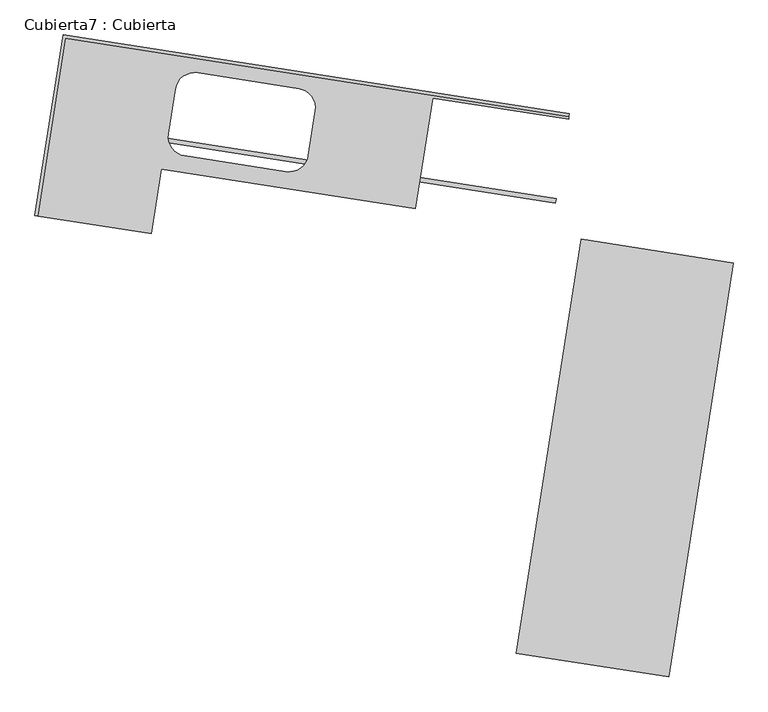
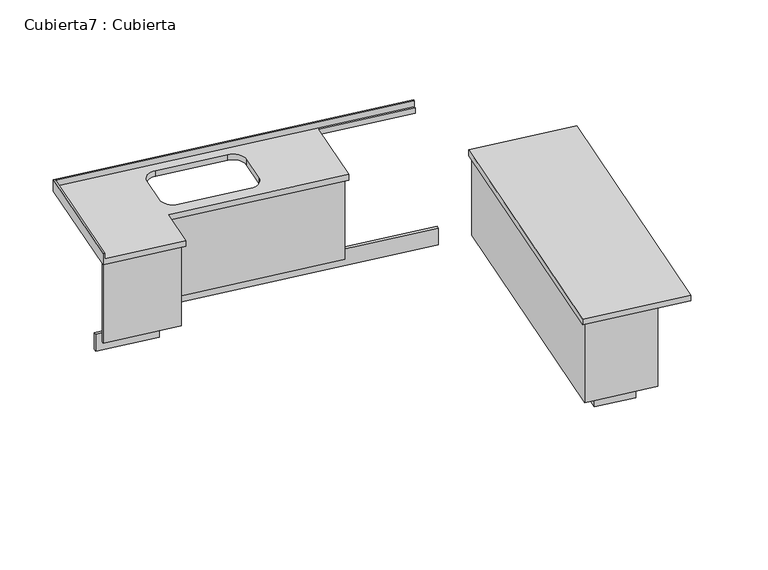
"""IFC4 building model written with IfcOpenShell, lengths in millimetres: furniture geometry, Cubierta7 : Cubierta."""

from ifc_helpers import new_model, si_unit, frame, origin, origin_with_axes, place, context, project, spatial, polyline, circle_curve, outline, extrude, faceted_brep, source, transform, mapped, element, save
from ifc_brep_helpers import plane_surface, revolved_surface, advanced_brep


def cubierta7_cubierta_697297b2(model_context):
    return source(origin(), model_context, "Body", "SolidModel", [
        extrude(outline(polyline([(-29021.3336477, -59013.6408119), (-28996.6319149, -59017.4910587), (-29326.2130606, -61131.9594818), (-29054.4939944, -61174.3121981), (-28724.9128487, -59059.8437765), (-28700.211116, -59063.6940234), (-29033.6425085, -61202.8641777), (-29354.7650402, -61152.8109677), (-29021.3336477, -59013.6408119)])), origin_with_axes(), (0.0, 0.0, 1.0), 150.0),
        extrude(outline(polyline([(-29125.0809247, -58997.4697745), (-29474.6833543, -61240.3872084), (-28946.0662678, -61322.7824918), (-28596.463839, -59079.865061), (-28576.7024528, -59082.9452585), (-28929.3850791, -61345.6240755), (-29497.524938, -61257.0683971), (-29144.8423109, -58994.389577), (-29125.0809247, -58997.4697745)])), frame((0.0, 0.0, 150.0), z_axis=(0.0, 0.0, 1.0), x_axis=(1.0, 0.0, 0.0)), (0.0, 0.0, 1.0), 720.0),
        extrude(outline(polyline([(-32162.243803, -58711.3026288), (-32158.3935562, -58686.600896), (-31689.0606345, -58759.755586), (-31633.6170853, -58404.050669), (-29306.7138747, -58766.7439199), (-29310.5641216, -58791.4456526), (-31612.7655994, -58432.6026486), (-31668.2091487, -58788.3075656), (-32162.243803, -58711.3026288)])), origin_with_axes(), (0.0, 0.0, 1.0), 150.0),
        extrude(outline(polyline([(-31563.9517193, -58931.0674634), (-32171.6143441, -58836.351391), (-32168.5341467, -58816.5900049), (-31580.632908, -58908.2258798), (-31525.1893588, -58552.5209627), (-30122.1309518, -58771.2149817), (-30028.9549782, -58173.4330499), (-30009.193592, -58176.5132474), (-30105.4497631, -58794.0565653), (-31508.5081701, -58575.3625464), (-31563.9517193, -58931.0674634)])), frame((0.0, 0.0, 150.0), z_axis=(0.0, 0.0, 1.0), x_axis=(1.0, 0.0, 0.0)), (0.0, 0.0, 1.0), 720.0),
        faceted_brep([(-28686.2179988, -61408.8282766, 920.0), (-28329.6851253, -59121.447726, 920.0), (-29169.544044, -58990.5393323, 920.0), (-29526.0769175, -61277.919883, 920.0), (-28686.2179988, -61408.8282766, 870.0), (-29526.0769175, -61277.919883, 870.0), (-29169.544044, -58990.5393323, 870.0), (-28329.6851253, -59121.447726, 870.0)], [[[0, 1, 2, 3]], [[4, 5, 6, 7]], [[0, 3, 5, 4]], [[2, 1, 7, 6]], [[1, 0, 4, 7]], [[3, 2, 6, 5]]]),
        advanced_brep(
        [(-31543.1002334, -58959.619443, 920.0), (-31487.6566842, -58603.9145259, 920.0), (-30084.5982773, -58822.6085449, 920.0), (-29989.1121555, -58210.0055735, 920.0), (-29238.1794809, -58327.0530776, 920.0), (-29235.8693328, -58312.2320379, 920.0), (-32017.2844254, -57878.6942451, 920.0), (-32170.5242444, -58861.8231732, 920.0), (-30677.2680249, -58527.8144546, 920.0), (-30799.4704974, -58617.0588141, 920.0), (-31357.7296568, -58530.0432355, 920.0), (-31446.9740164, -58407.8407629, 920.0), (-31408.4715479, -58160.8234358, 920.0), (-31286.2690754, -58071.5790762, 920.0), (-30728.009916, -58158.5946549, 920.0), (-30638.7655564, -58280.7971274, 920.0), (-29233.5591847, -58297.4109982, 870.0), (-29238.1794809, -58327.0530776, 870.0), (-29989.1121555, -58210.0055735, 870.0), (-30084.5982773, -58822.6085449, 870.0), (-31487.6566842, -58603.9145259, 870.0), (-31543.1002334, -58959.619443, 870.0), (-32185.3452841, -58859.5130251, 870.0), (-32029.7953169, -57861.5630573, 870.0), (-30677.2680249, -58527.8144546, 870.0), (-30638.7655564, -58280.7971274, 870.0), (-30728.009916, -58158.5946549, 870.0), (-31286.2690754, -58071.5790762, 870.0), (-31408.4715479, -58160.8234358, 870.0), (-31446.9740164, -58407.8407629, 870.0), (-31357.7296568, -58530.0432355, 870.0), (-30799.4704974, -58617.0588141, 870.0), (-32170.5242444, -58861.8231732, 970.0), (-32185.3452841, -58859.5130251, 970.0), (-32017.2844254, -57878.6942451, 970.0), (-29235.8693328, -58312.2320379, 970.0), (-32029.7953169, -57861.5630574, 970.0), (-29233.5591847, -58297.4109983, 970.0)],
        [
            (0, 1),
            (1, 2),
            (2, 3),
            (3, 4),
            (4, 5),
            (5, 6),
            (6, 7),
            (7, 0),
            (8, 9, circle_curve(frame((-30782.9914409, -58511.3353981, 920.0), z_axis=(0.0, 0.0, -1.0), x_axis=(-0.988069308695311, 0.15400987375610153, 0.0)), 107.0)),
            (9, 10),
            (10, 11, circle_curve(frame((-31341.2506003, -58424.3198194, 920.0), z_axis=(0.0, 0.0, -1.0), x_axis=(-0.988069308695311, 0.15400987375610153, 0.0)), 107.0)),
            (11, 12),
            (12, 13, circle_curve(frame((-31302.7481319, -58177.3024922, 920.0), z_axis=(0.0, 0.0, -1.0), x_axis=(-0.988069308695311, 0.15400987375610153, 0.0)), 107.0)),
            (13, 14),
            (14, 15, circle_curve(frame((-30744.4889725, -58264.3180709, 920.0), z_axis=(0.0, 0.0, -1.0), x_axis=(-0.988069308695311, 0.15400987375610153, 0.0)), 107.0)),
            (15, 8),
            (16, 17),
            (17, 18),
            (18, 19),
            (19, 20),
            (20, 21),
            (21, 22),
            (22, 23),
            (23, 16),
            (24, 25),
            (25, 26, circle_curve(frame((-30744.4889725, -58264.3180709, 870.0), z_axis=(0.0, 0.0, 1.0), x_axis=(-0.988069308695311, 0.15400987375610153, 0.0)), 107.0)),
            (26, 27),
            (27, 28, circle_curve(frame((-31302.7481319, -58177.3024922, 870.0), z_axis=(0.0, 0.0, 1.0), x_axis=(-0.988069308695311, 0.15400987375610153, 0.0)), 107.0)),
            (28, 29),
            (29, 30, circle_curve(frame((-31341.2506003, -58424.3198194, 870.0), z_axis=(0.0, 0.0, 1.0), x_axis=(-0.988069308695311, 0.15400987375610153, 0.0)), 107.0)),
            (30, 31),
            (31, 24, circle_curve(frame((-30782.9914409, -58511.3353981, 870.0), z_axis=(0.0, 0.0, 1.0), x_axis=(-0.988069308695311, 0.15400987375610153, 0.0)), 107.0)),
            (21, 0),
            (7, 32),
            (32, 33),
            (33, 22),
            (34, 6),
            (5, 35),
            (35, 34),
            (36, 37),
            (37, 16),
            (23, 36),
            (4, 17),
            (37, 35),
            (1, 20),
            (19, 2),
            (15, 25),
            (24, 8),
            (14, 26),
            (13, 27),
            (12, 28),
            (11, 29),
            (10, 30),
            (9, 31),
            (3, 18),
            (32, 34),
            (36, 33),
        ],
        [
            plane_surface(frame((-28306.9452545, -58975.5572849, 920.0), z_axis=(0.0, 0.0, 1.0000000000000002), x_axis=(0.15400987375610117, 0.9880693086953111, 0.0))),
            plane_surface(frame((-28306.9452545, -58975.5572849, 870.0), z_axis=(0.0, 0.0, -1.0000000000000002), x_axis=(-0.15400987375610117, -0.9880693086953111, 0.0))),
            plane_surface(frame((-32185.3452841, -58859.5130251, 20.0), z_axis=(-0.15400987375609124, -0.9880693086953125, 0.0), x_axis=(0.0, 0.0, 1.0))),
            plane_surface(frame((-32017.2844254, -57878.6942451, 920.0), z_axis=(-0.15400987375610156, -0.9880693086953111, 0.0), x_axis=(0.9880693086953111, -0.15400987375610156, 0.0))),
            plane_surface(frame((-32029.7953169, -57861.5630574, 970.0), z_axis=(0.1540098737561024, 0.9880693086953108, 0.0), x_axis=(0.9880693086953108, -0.1540098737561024, 0.0))),
            plane_surface(frame((-29233.5591847, -58297.4109983, 20.0), z_axis=(0.9880693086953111, -0.15400987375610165, 0.0), x_axis=(0.0, 0.0, 1.0))),
            plane_surface(frame((-31487.6566842, -58603.9145259, 920.0), z_axis=(-0.15400987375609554, -0.988069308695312, 0.0), x_axis=(0.0, 0.0, -1.0))),
            plane_surface(frame((-30638.7655564, -58280.7971274, 920.0), z_axis=(-0.9880693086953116, 0.15400987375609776, 0.0), x_axis=(0.0, 0.0, -1.0))),
            revolved_surface(polyline([(-30850.2123885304, -58247.8390144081, 870.0), (-30850.2123885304, -58247.8390144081, 920.0)]), (-30744.4889725, -58264.3180709, 20.0), (0.0, 0.0, -1.0)),
            plane_surface(frame((-31286.2690754, -58071.5790762, 920.0), z_axis=(-0.15400987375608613, -0.9880693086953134, 0.0), x_axis=(0.0, 0.0, -1.0))),
            revolved_surface(polyline([(-31408.4715479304, -58160.823435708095, 870.0), (-31408.4715479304, -58160.823435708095, 920.0)]), (-31302.7481319, -58177.3024922, 20.0), (0.0, 0.0, -1.0)),
            plane_surface(frame((-31446.9740164, -58407.8407629, 920.0), z_axis=(0.9880693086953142, -0.15400987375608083, 0.0), x_axis=(0.0, 0.0, -1.0))),
            revolved_surface(polyline([(-31446.9740163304, -58407.8407629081, 870.0), (-31446.9740163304, -58407.8407629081, 920.0)]), (-31341.2506003, -58424.3198194, 20.0), (0.0, 0.0, -1.0)),
            plane_surface(frame((-30799.4704974, -58617.0588141, 920.0), z_axis=(0.15400987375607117, 0.9880693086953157, 0.0), x_axis=(0.0, 0.0, -1.0))),
            revolved_surface(polyline([(-30888.7148569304, -58494.856341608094, 870.0), (-30888.7148569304, -58494.856341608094, 920.0)]), (-30782.9914409, -58511.3353981, 20.0), (0.0, 0.0, -1.0)),
            plane_surface(frame((-31543.1002334, -58959.619443, 920.0), z_axis=(0.9880693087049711, -0.15400987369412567, 0.0), x_axis=(0.0, 0.0, -1.0))),
            plane_surface(frame((-29989.1121555, -58210.0055735, 920.0), z_axis=(-0.15400987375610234, -0.9880693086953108, 0.0), x_axis=(0.0, 0.0, -1.0))),
            plane_surface(frame((-30084.5982773, -58822.6085449, 920.0), z_axis=(0.9880693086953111, -0.15400987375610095, 0.0), x_axis=(0.0, 0.0, -1.0))),
            plane_surface(frame((-32170.5242444, -58861.8231732, 970.0), z_axis=(0.0, 0.0, 1.0000000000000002), x_axis=(0.1540098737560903, 0.9880693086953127, 0.0))),
            plane_surface(frame((-32170.5242444, -58861.8231732, 920.0), z_axis=(0.9880693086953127, -0.1540098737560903, 0.0), x_axis=(0.1540098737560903, 0.9880693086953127, 0.0))),
            plane_surface(frame((-32185.3452841, -58859.5130251, 970.0), z_axis=(-0.9880693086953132, 0.154009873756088, 0.0), x_axis=(0.154009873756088, 0.9880693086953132, 0.0))),
        ],
        [
            (0, [[1, 2, 3, 4, 5, 6, 7, 8], [9, 10, 11, 12, 13, 14, 15, 16]]),
            (1, [[17, 18, 19, 20, 21, 22, 23, 24], [25, 26, 27, 28, 29, 30, 31, 32]]),
            (2, [[-22, 33, -8, 34, 35, 36]]),
            (3, [[37, -6, 38, 39]]),
            (4, [[40, 41, -24, 42]]),
            (5, [[-38, -5, 43, -17, -41, 44]]),
            (6, [[-2, 45, -20, 46]]),
            (7, [[-16, 47, -25, 48]]),
            (8, [[-15, 49, -26, -47]]),
            (9, [[-14, 50, -27, -49]]),
            (10, [[-13, 51, -28, -50]]),
            (11, [[-12, 52, -29, -51]]),
            (12, [[-11, 53, -30, -52]]),
            (13, [[-10, 54, -31, -53]]),
            (14, [[-9, -48, -32, -54]]),
            (15, [[-1, -33, -21, -45]]),
            (16, [[-4, 55, -18, -43]]),
            (17, [[-3, -46, -19, -55]]),
            (18, [[-35, 56, -39, -44, -40, 57]]),
            (19, [[-34, -7, -37, -56]]),
            (20, [[-36, -57, -42, -23]]),
        ],
    ),
    ])


if __name__ == "__main__":
    model = new_model("IFC4")
    model_context = context("Model", 3, world=origin())
    ifc_project = project(units=[si_unit("LENGTHUNIT", "METRE", prefix="MILLI")], contexts=[model_context])
    site = spatial("IfcSite", under=ifc_project)
    building = spatial("IfcBuilding", under=site)
    placement = place(None, origin())
    cubierta7_cubierta_shape = cubierta7_cubierta_697297b2(model_context)
    element("IfcFurniture", 1, ObjectType="Cubierta7 : Cubierta", at=placement, inside=building, context=model_context, shape_type="MappedRepresentation", body=[
        mapped(cubierta7_cubierta_shape, transform((0.0, 0.0, 0.0), x_axis=(1.0, 0.0, 0.0), y_axis=(0.0, 1.0, 0.0), z_axis=(0.0, 0.0, 1.0))),
    ])
    save(model, "model.ifc")
